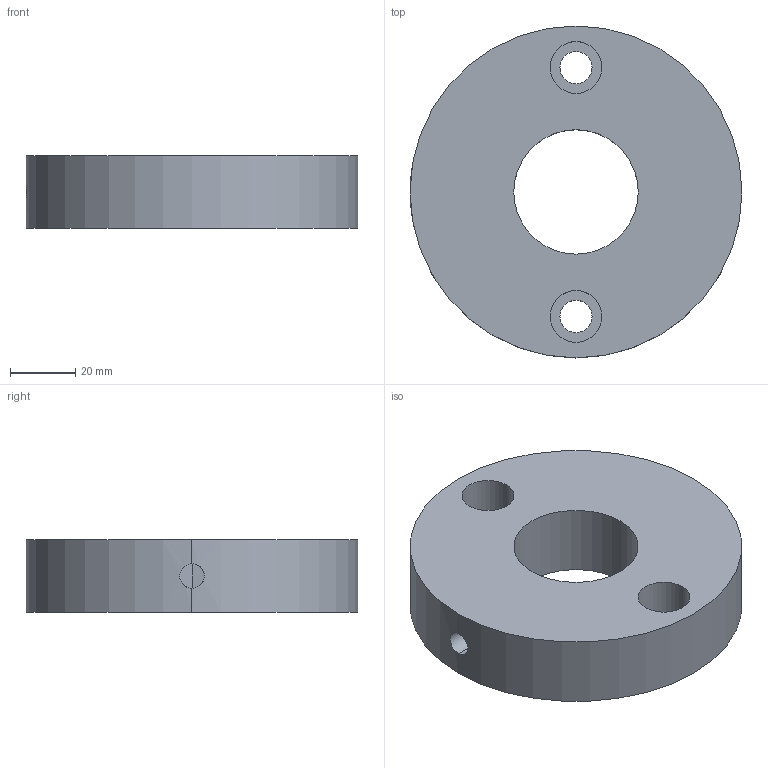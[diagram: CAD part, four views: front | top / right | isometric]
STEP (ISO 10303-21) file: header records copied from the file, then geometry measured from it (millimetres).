
FILE_DESCRIPTION (( 'STEP AP203' ), '1' );
FILE_NAME ('middle coupling rev02.STEP', '2026-03-12T23:45:03', ( '' ), ( '' ), 'SwSTEP 2.0', 'SolidWorks 2025', '' );
FILE_SCHEMA (( 'CONFIG_CONTROL_DESIGN' ));
Length unit declared in the file: millimetre
Products named in the file (1): middle coupling rev02
Bounding box: 101.6 x 101.6 x 22.23 mm (x, y, z)
Volume: 146188.8 mm3; surface area: 26022.4 mm2
Topology: 1 solids, 1 shells, 18 faces, 44 edges, 28 vertices
Faces by surface type: cylinder 14, plane 4
Entity records: 755 total; most frequent: CARTESIAN_POINT 221, DIRECTION 102, ORIENTED_EDGE 88, EDGE_CURVE 44, AXIS2_PLACEMENT_3D 43, VERTEX_POINT 28, EDGE_LOOP 26, CIRCLE 24
